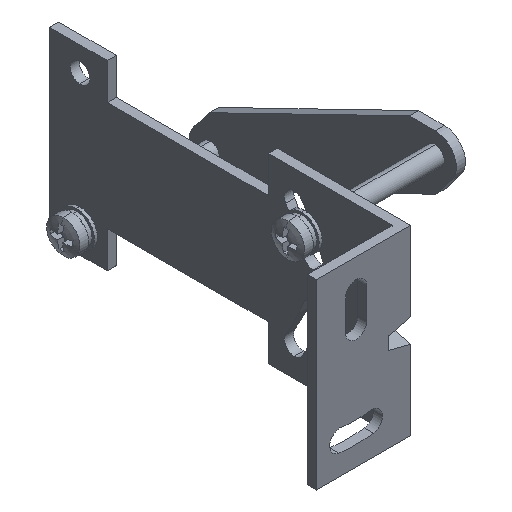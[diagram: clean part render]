
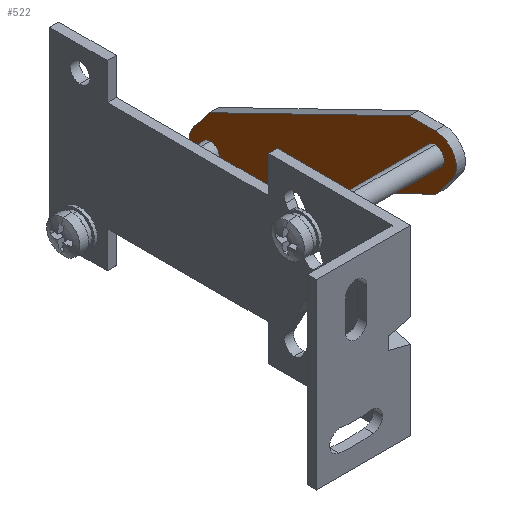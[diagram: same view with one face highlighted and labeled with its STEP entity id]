
A CAD part, isometric view. The second image highlights one B-rep face of the part: STEP entity #522.
In plain terms, the highlighted planar face has unit normal (-1, 0, 0).
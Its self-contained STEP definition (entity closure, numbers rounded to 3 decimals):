
#42 = EDGE_CURVE ( 'NONE', #204, #170, #1604, .T. ) ;
#103 = EDGE_CURVE ( 'NONE', #193, #189, #1621, .T. ) ;
#116 = EDGE_CURVE ( 'NONE', #174, #169, #1644, .T. ) ;
#123 = EDGE_CURVE ( 'NONE', #189, #174, #1653, .T. ) ;
#129 = EDGE_CURVE ( 'NONE', #197, #180, #1667, .T. ) ;
#133 = EDGE_CURVE ( 'NONE', #239, #197, #1671, .T. ) ;
#135 = EDGE_CURVE ( 'NONE', #171, #239, #1665, .T. ) ;
#136 = EDGE_CURVE ( 'NONE', #184, #258, #1678, .T. ) ;
#143 = EDGE_CURVE ( 'NONE', #258, #184, #1689, .T. ) ;
#144 = EDGE_CURVE ( 'NONE', #169, #171, #1669, .T. ) ;
#146 = EDGE_CURVE ( 'NONE', #170, #204, #1692, .T. ) ;
#150 = EDGE_CURVE ( 'NONE', #180, #193, #1696, .T. ) ;
#169 = VERTEX_POINT ( 'NONE', #406 ) ;
#170 = VERTEX_POINT ( 'NONE', #404 ) ;
#171 = VERTEX_POINT ( 'NONE', #880 ) ;
#174 = VERTEX_POINT ( 'NONE', #396 ) ;
#180 = VERTEX_POINT ( 'NONE', #388 ) ;
#184 = VERTEX_POINT ( 'NONE', #383 ) ;
#189 = VERTEX_POINT ( 'NONE', #361 ) ;
#193 = VERTEX_POINT ( 'NONE', #357 ) ;
#197 = VERTEX_POINT ( 'NONE', #352 ) ;
#204 = VERTEX_POINT ( 'NONE', #341 ) ;
#239 = VERTEX_POINT ( 'NONE', #393 ) ;
#258 = VERTEX_POINT ( 'NONE', #467 ) ;
#341 = CARTESIAN_POINT ( 'NONE',  ( 0., 18.5, -7.5 ) ) ;
#352 = CARTESIAN_POINT ( 'NONE',  ( 0., -18.5, 12.5 ) ) ;
#357 = CARTESIAN_POINT ( 'NONE',  ( 0., -18.64, 3.508 ) ) ;
#361 = CARTESIAN_POINT ( 'NONE',  ( 0., 14.265, -12.5 ) ) ;
#383 = CARTESIAN_POINT ( 'NONE',  ( 0., -18.5, 10.5 ) ) ;
#388 = CARTESIAN_POINT ( 'NONE',  ( 0., -21.254, 6.84 ) ) ;
#393 = CARTESIAN_POINT ( 'NONE',  ( 0., -14.265, 12.5 ) ) ;
#396 = CARTESIAN_POINT ( 'NONE',  ( 0., 18.5, -12.5 ) ) ;
#404 = CARTESIAN_POINT ( 'NONE',  ( 0., 18.5, -10.5 ) ) ;
#406 = CARTESIAN_POINT ( 'NONE',  ( 0., 21.254, -6.84 ) ) ;
#417 = DIRECTION ( 'NONE',  ( 0., 0.617, -0.787 ) ) ;
#460 = CARTESIAN_POINT ( 'NONE',  ( 0., 18.5, -9. ) ) ;
#467 = CARTESIAN_POINT ( 'NONE',  ( 0., -18.5, 7.5 ) ) ;
#475 = DIRECTION ( 'NONE',  ( 1., 0., 0. ) ) ;
#478 = PLANE ( 'NONE',  #1343 ) ;
#480 = CARTESIAN_POINT ( 'NONE',  ( 0., -21.254, 6.84 ) ) ;
#488 = DIRECTION ( 'NONE',  ( 0., 0., -1. ) ) ;
#522 = ADVANCED_FACE ( 'NONE', ( #1698, #1703, #1705 ), #478, .F. ) ;
#615 = CARTESIAN_POINT ( 'NONE',  ( 0., -18.64, 3.508 ) ) ;
#690 = DIRECTION ( 'NONE',  ( 0., 0., -1. ) ) ;
#762 = DIRECTION ( 'NONE',  ( 1., 0., 0. ) ) ;
#763 = CARTESIAN_POINT ( 'NONE',  ( 0., 18.5, -9. ) ) ;
#780 = DIRECTION ( 'NONE',  ( 0., 0.899, -0.437 ) ) ;
#801 = CARTESIAN_POINT ( 'NONE',  ( 0., 18.5, -9. ) ) ;
#812 = DIRECTION ( 'NONE',  ( 1., 0., 0. ) ) ;
#813 = DIRECTION ( 'NONE',  ( 0., 0., -1. ) ) ;
#827 = CARTESIAN_POINT ( 'NONE',  ( 0., 18.5, -12.5 ) ) ;
#828 = DIRECTION ( 'NONE',  ( 0., 1., 0. ) ) ;
#835 = CARTESIAN_POINT ( 'NONE',  ( 0., -18.5, 9. ) ) ;
#841 = DIRECTION ( 'NONE',  ( 1., 0., 0. ) ) ;
#842 = DIRECTION ( 'NONE',  ( 0., 0., -1. ) ) ;
#847 = CARTESIAN_POINT ( 'NONE',  ( 0., 18.64, -3.508 ) ) ;
#849 = CARTESIAN_POINT ( 'NONE',  ( 0., -18.5, 12.5 ) ) ;
#850 = DIRECTION ( 'NONE',  ( 0., -1., 0. ) ) ;
#853 = CARTESIAN_POINT ( 'NONE',  ( 0., -18.5, 9. ) ) ;
#854 = DIRECTION ( 'NONE',  ( 0., -0.899, 0.437 ) ) ;
#856 = DIRECTION ( 'NONE',  ( 1., 0., 0. ) ) ;
#857 = DIRECTION ( 'NONE',  ( 0., 0., -1. ) ) ;
#869 = CARTESIAN_POINT ( 'NONE',  ( 0., -18.5, 9. ) ) ;
#872 = CARTESIAN_POINT ( 'NONE',  ( 0., 18.5, -9. ) ) ;
#876 = DIRECTION ( 'NONE',  ( 1., 0., 0. ) ) ;
#877 = DIRECTION ( 'NONE',  ( 0., 0., -1. ) ) ;
#878 = CARTESIAN_POINT ( 'NONE',  ( 0., 21.254, -6.84 ) ) ;
#879 = DIRECTION ( 'NONE',  ( 0., -0.617, 0.787 ) ) ;
#880 = CARTESIAN_POINT ( 'NONE',  ( 0., 18.64, -3.508 ) ) ;
#881 = DIRECTION ( 'NONE',  ( 1., 0., 0. ) ) ;
#882 = DIRECTION ( 'NONE',  ( 0., 0., -1. ) ) ;
#972 = ORIENTED_EDGE ( 'NONE', *, *, #136, .T. ) ;
#975 = ORIENTED_EDGE ( 'NONE', *, *, #144, .F. ) ;
#990 = ORIENTED_EDGE ( 'NONE', *, *, #129, .F. ) ;
#996 = ORIENTED_EDGE ( 'NONE', *, *, #116, .F. ) ;
#1002 = ORIENTED_EDGE ( 'NONE', *, *, #143, .T. ) ;
#1003 = ORIENTED_EDGE ( 'NONE', *, *, #103, .F. ) ;
#1077 = EDGE_LOOP ( 'NONE', ( #972, #1002 ) ) ;
#1084 = EDGE_LOOP ( 'NONE', ( #1003, #1117, #990, #1089, #1153, #975, #996, #1125 ) ) ;
#1089 = ORIENTED_EDGE ( 'NONE', *, *, #133, .F. ) ;
#1117 = ORIENTED_EDGE ( 'NONE', *, *, #150, .F. ) ;
#1125 = ORIENTED_EDGE ( 'NONE', *, *, #123, .F. ) ;
#1151 = EDGE_LOOP ( 'NONE', ( #1159, #1161 ) ) ;
#1153 = ORIENTED_EDGE ( 'NONE', *, *, #135, .F. ) ;
#1159 = ORIENTED_EDGE ( 'NONE', *, *, #42, .T. ) ;
#1161 = ORIENTED_EDGE ( 'NONE', *, *, #146, .T. ) ;
#1329 = AXIS2_PLACEMENT_3D ( 'NONE', #763, #762, #690 ) ;
#1335 = AXIS2_PLACEMENT_3D ( 'NONE', #801, #812, #813 ) ;
#1340 = AXIS2_PLACEMENT_3D ( 'NONE', #835, #841, #842 ) ;
#1341 = AXIS2_PLACEMENT_3D ( 'NONE', #853, #856, #857 ) ;
#1343 = AXIS2_PLACEMENT_3D ( 'NONE', #460, #475, #488 ) ;
#1345 = AXIS2_PLACEMENT_3D ( 'NONE', #869, #876, #877 ) ;
#1347 = AXIS2_PLACEMENT_3D ( 'NONE', #872, #881, #882 ) ;
#1604 = CIRCLE ( 'NONE', #1329, 1.5 ) ;
#1621 = LINE ( 'NONE', #615, #1622 ) ;
#1622 = VECTOR ( 'NONE', #780, 1000. ) ;
#1644 = CIRCLE ( 'NONE', #1335, 3.5 ) ;
#1653 = LINE ( 'NONE', #827, #1654 ) ;
#1654 = VECTOR ( 'NONE', #828, 1000. ) ;
#1665 = LINE ( 'NONE', #847, #1675 ) ;
#1667 = CIRCLE ( 'NONE', #1340, 3.5 ) ;
#1669 = LINE ( 'NONE', #878, #1686 ) ;
#1671 = LINE ( 'NONE', #849, #1672 ) ;
#1672 = VECTOR ( 'NONE', #850, 1000. ) ;
#1675 = VECTOR ( 'NONE', #854, 1000. ) ;
#1678 = CIRCLE ( 'NONE', #1341, 1.5 ) ;
#1686 = VECTOR ( 'NONE', #879, 1000. ) ;
#1689 = CIRCLE ( 'NONE', #1345, 1.5 ) ;
#1692 = CIRCLE ( 'NONE', #1347, 1.5 ) ;
#1696 = LINE ( 'NONE', #480, #1697 ) ;
#1697 = VECTOR ( 'NONE', #417, 1000. ) ;
#1698 = FACE_BOUND ( 'NONE', #1151, .T. ) ;
#1703 = FACE_OUTER_BOUND ( 'NONE', #1084, .T. ) ;
#1705 = FACE_BOUND ( 'NONE', #1077, .T. ) ;
